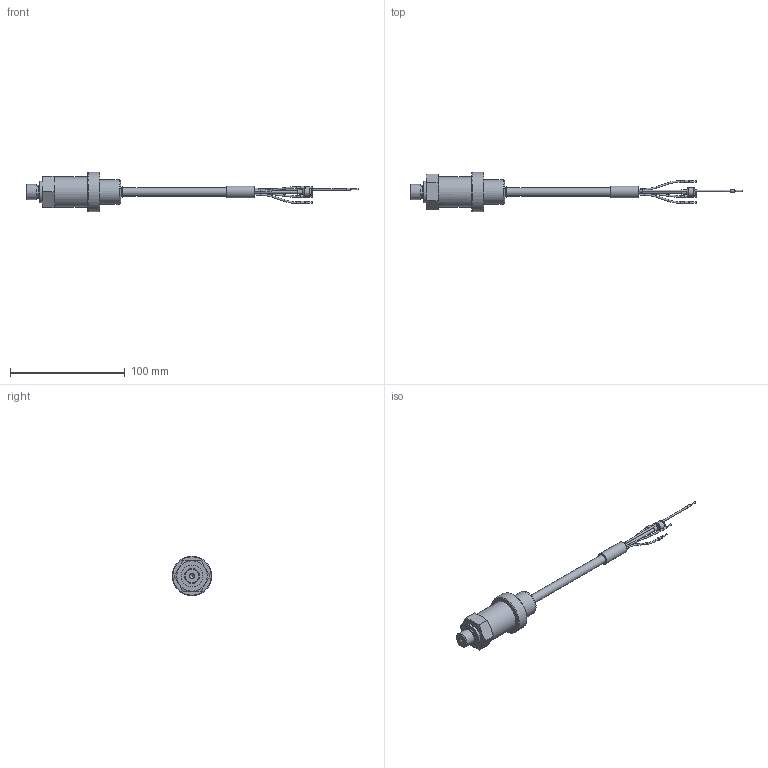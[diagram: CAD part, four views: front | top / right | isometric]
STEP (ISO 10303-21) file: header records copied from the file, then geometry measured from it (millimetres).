
FILE_DESCRIPTION(/* description */ (''),/* implementation_level */ '2;1');
FILE_NAME(/* name */ 'DMP343-100-xxxx-x-x-TR1-300-x-000.stp',/* time_stamp */ '2024-10-07T11:48:49+02:00',/* author */ ('cz1166'),/* organization */ (''),/* preprocessor_version */ 'ST-DEVELOPER v19.2',/* originating_system */ 'Autodesk Inventor 2023',/* authorisation */ '');
FILE_SCHEMA (('AUTOMOTIVE_DESIGN { 1 0 10303 214 3 1 1 }'));
Length unit declared in the file: millimetre
Products named in the file (1): DMP343-100-xxxx-x-x-TR1-300-x-000_Zjednoduši
t_1
Bounding box: 289.75 x 34.5 x 34.5 mm (x, y, z)
Volume: 47847.9 mm3; surface area: 14162.5 mm2
Topology: 1 solids, 1 shells, 100 faces, 230 edges, 148 vertices
Faces by surface type: cylinder 38, plane 26, cone 17, torus 15, bspline 4
Full cylindrical faces by diameter (mm): 1.1 x4, 1.4 x13, 1.45 x2, 2.1 x1, 2.2 x4, 2.5 x2, 7.4 x1, 7.536 x1, 7.6 x1, 10.2 x1, 11.2 x1, 13.157 x1, 19 x1, 21.4 x1, 26.5 x1, 34.5 x1
Entity records: 3531 total; most frequent: CARTESIAN_POINT 922, DIRECTION 527, ORIENTED_EDGE 458, AXIS2_PLACEMENT_3D 233, EDGE_CURVE 229, VERTEX_POINT 148, CIRCLE 136, EDGE_LOOP 127
